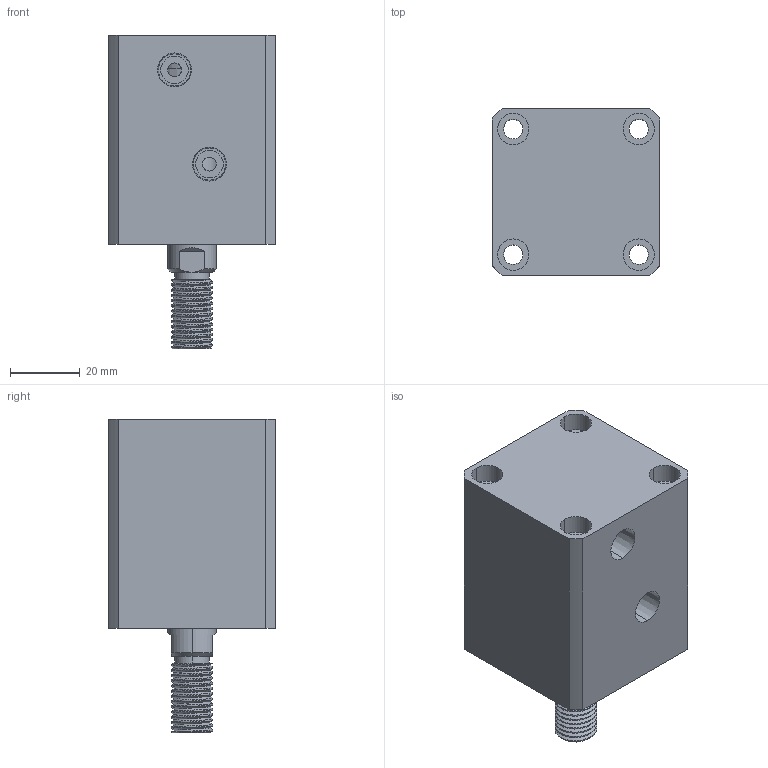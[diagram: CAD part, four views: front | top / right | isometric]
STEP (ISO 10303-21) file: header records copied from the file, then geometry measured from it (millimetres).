
FILE_DESCRIPTION (( 'STEP AP214' ), '1' );
FILE_NAME ('chtb-sd25x15w_asm.STEP', '2018-05-22T09:11:43', ( 'Windows' ), ( 'Microsoft' ), 'SwSTEP 2.0', 'SolidWorks 2015', '' );
FILE_SCHEMA (( 'AUTOMOTIVE_DESIGN' ));
Length unit declared in the file: millimetre
Products named in the file (4): CHTB-SD25X15NBT; CHTB-SD15X15WHSG; CHTB-25QG; chtb-sd25x15w_asm
Assembly tree (3 placements, depth 2):
  chtb-sd25x15w_asm
    CHTB-25QG
    CHTB-SD15X15WHSG
    CHTB-SD25X15NBT
Bounding box: 48 x 48 x 90 mm (x, y, z)
Volume: 125865.8 mm3; surface area: 36006.2 mm2
Topology: 3 solids, 3 shells, 178 faces, 474 edges, 323 vertices
Faces by surface type: cylinder 113, plane 39, cone 14, bspline 12
Entity records: 10610 total; most frequent: CARTESIAN_POINT 6273, ORIENTED_EDGE 940, DIRECTION 778, EDGE_CURVE 470, VERTEX_POINT 323, AXIS2_PLACEMENT_3D 317, EDGE_LOOP 217, FACE_OUTER_BOUND 178
